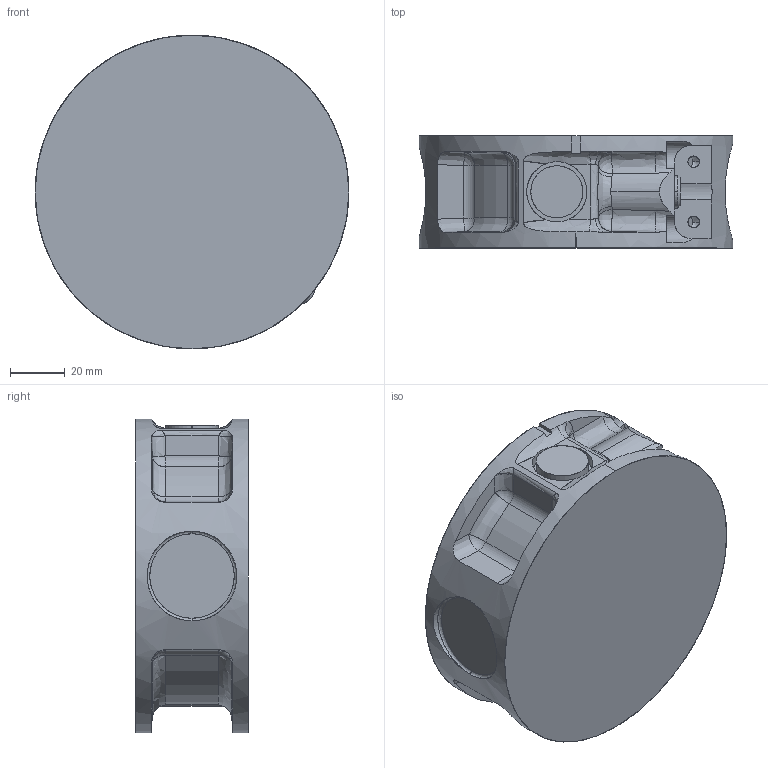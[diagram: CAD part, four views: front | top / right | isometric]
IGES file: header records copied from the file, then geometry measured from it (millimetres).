
Start section: SolidWorks IGES file using analytic representation for surfaces
Global section: file name: C:\Data\Lättmodeller\Nytt\2600\2600_IRC5_IGES_j\IRB2600_12-165_LINK5_CAD_rev03.IGS; native system: SolidWorks 2014; preprocessor: SolidWorks 2014; author: seadbov; date: 161202.113246; units: millimetre
Bounding box: 114.6 x 41 x 114.6 mm (x, y, z)
Surface area: 40257 mm2 (no closed solid volume)
Topology: 0 solids, 0 shells, 150 faces, 2582 edges, 2574 vertices
Faces by surface type: bspline 78, revolution 72
